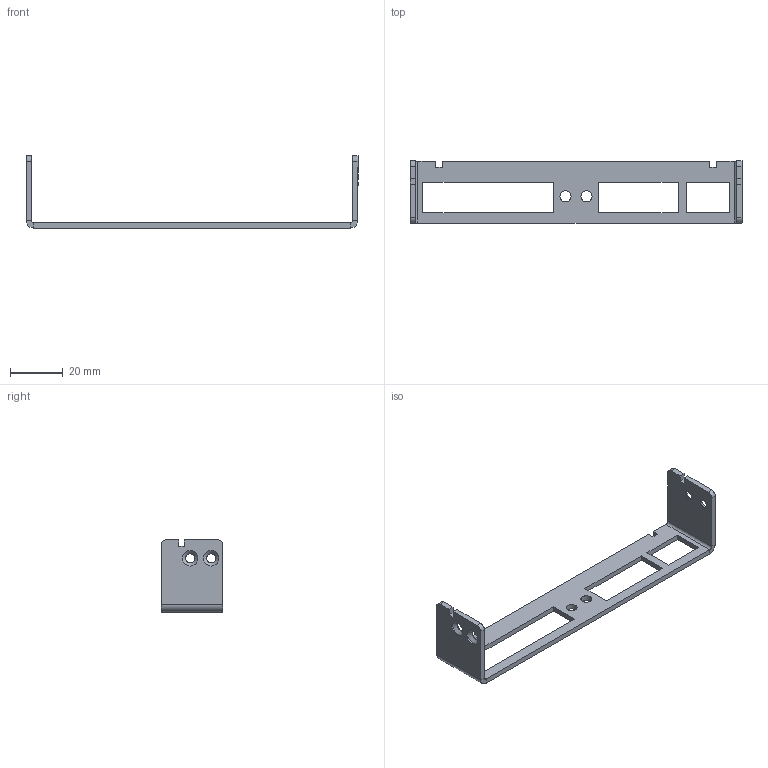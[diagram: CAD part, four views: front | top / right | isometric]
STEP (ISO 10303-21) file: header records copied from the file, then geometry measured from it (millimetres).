
FILE_DESCRIPTION(/* description */ ('','CAx-IF Rec.Pracs.---Representation and Presentation of Product Manufacturing Information (PMI)---4.0---2014-10-13'),/* implementation_level */ '2;1');
FILE_NAME(/* name */ 'G:\Alle CAD Daten\CAMTEC_2020_Pack and Go\PSU CPS-i3000 - CPS-i2000\2051054004.stp',/* time_stamp */ '2020-09-20T22:24:15+02:00',/* author */ ('rryba'),/* organization */ (''),/* preprocessor_version */ 'ST-DEVELOPER v18.1',/* originating_system */ 'Autodesk Inventor 2021',/* authorisation */ '');
FILE_SCHEMA (('AP242_MANAGED_MODEL_BASED_3D_ENGINEERING_MIM_LF { 1 0 10303 442 1 1 4 }'));
Length unit declared in the file: millimetre
Products named in the file (1): 2051054004
Bounding box: 126.4 x 23.6 x 27.5 mm (x, y, z)
Volume: 5813.5 mm3; surface area: 7375.5 mm2
Topology: 1 solids, 1 shells, 68 faces, 211 edges, 178 vertices
Faces by surface type: plane 46, cylinder 18, cone 4
Full cylindrical faces by diameter (mm): 3.4 x4, 4.2 x2, 5.9 x4
Entity records: 2285 total; most frequent: CARTESIAN_POINT 421, DIRECTION 356, ORIENTED_EDGE 348, EDGE_CURVE 174, LINE 138, VECTOR 138, AXIS2_PLACEMENT_3D 109, VERTEX_POINT 108
